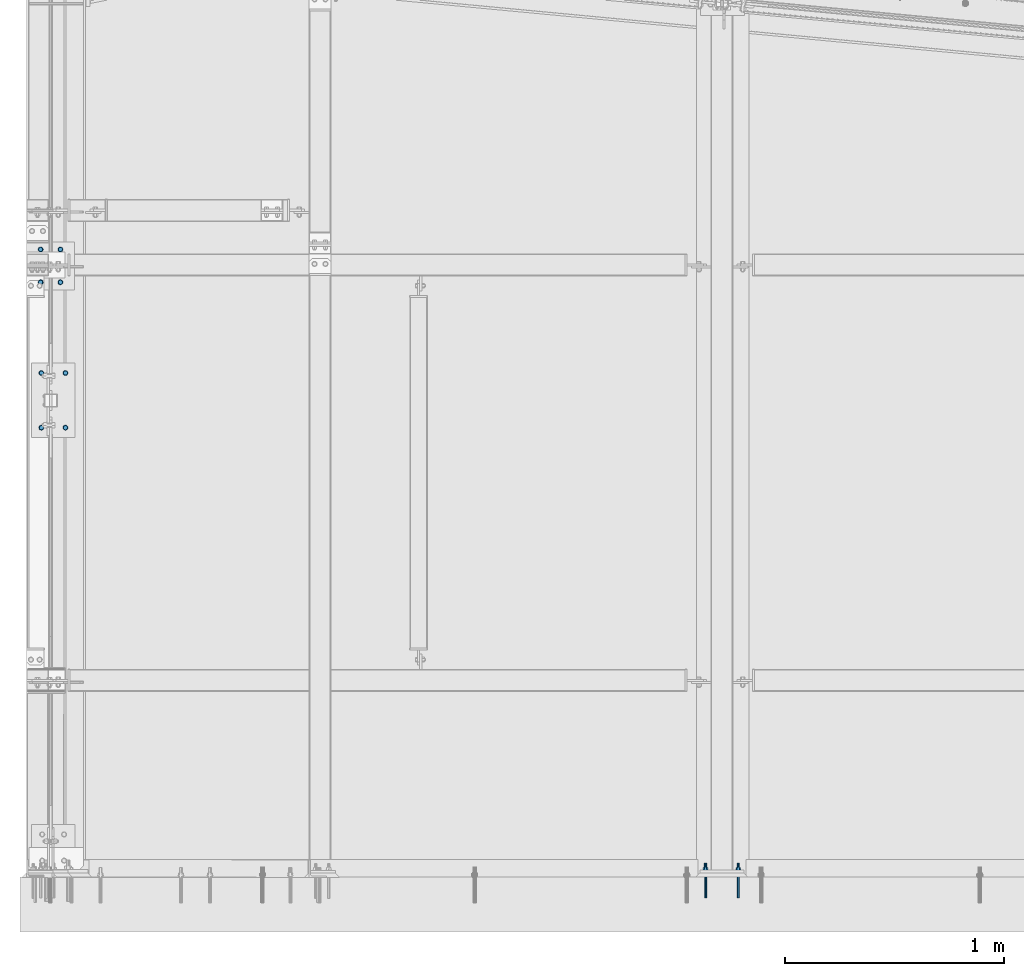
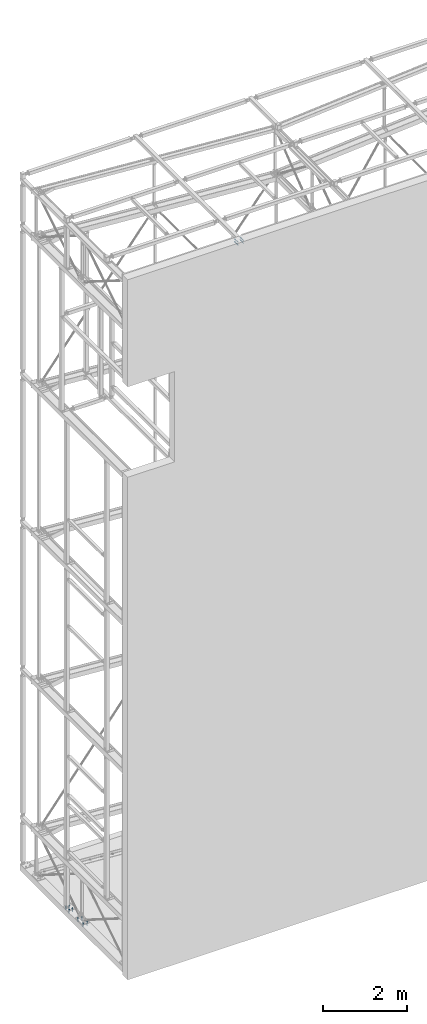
# One storey, part 218 of 271: 3 mechanical fasteners, 2 elements without a shape of their own.
"""IFC2X3 building model written with IfcOpenShell, lengths in millimetres."""

from ifc_helpers import new_model, si_unit, frame, origin_with_axes, origin_2d_with_axis, place, context, subcontext, project, spatial, polyline, circle, outline, extrude, source, transform, mapped, material, type_object, element, aggregate, save


model = new_model("IFC2X3")

# Units and contexts
model_context = context("Model", 3, precision=1e-05, world=origin_with_axes())
body_context = subcontext(model_context, "Body", "Model", "MODEL_VIEW")
ifc_project = project(units=[si_unit("LENGTHUNIT", "METRE", prefix="MILLI"), si_unit("AREAUNIT", "SQUARE_METRE"), si_unit("VOLUMEUNIT", "CUBIC_METRE"), si_unit("MASSUNIT", "GRAM", prefix="KILO"), si_unit("TIMEUNIT", "SECOND"), si_unit("PLANEANGLEUNIT", "RADIAN"), si_unit("SOLIDANGLEUNIT", "STERADIAN"), si_unit("THERMODYNAMICTEMPERATUREUNIT", "DEGREE_CELSIUS"), si_unit("LUMINOUSINTENSITYUNIT", "LUMEN")], contexts=[model_context])

# Site, building, storey
site_placement = place(None, origin_with_axes())
site = spatial("IfcSite", under=ifc_project, at=site_placement, Name="Undefined", CompositionType="ELEMENT")
building_placement = place(site_placement, origin_with_axes())
building = spatial("IfcBuilding", under=site, at=building_placement, Name="Undefined", CompositionType="ELEMENT")
storey_placement = place(building_placement, origin_with_axes())
storey = spatial("IfcBuildingStorey", under=building, at=storey_placement, Name="Undefined", CompositionType="ELEMENT", Elevation=0.0)

# Assembly, mechanical fasteners
assembly_1_placement = place(storey_placement, origin_with_axes())
assembly_1 = element("IfcElementAssembly", 1, at=assembly_1_placement, inside=storey, AssemblyPlace="NOTDEFINED", PredefinedType="REINFORCEMENT_UNIT")
ifc_material = material(Name="Undefined")
mechanical_fastener_type = type_object("IfcMechanicalFastenerType", Name="Bolt assembly")
shared_shape_1 = source(origin_with_axes(), body_context, "Body", "SweptSolid", [
    extrude(circle(Radius=7.0, at=origin_2d_with_axis()), frame((0.0, 0.0, 0.0), z_axis=(0.0, 1.0, 0.0), x_axis=(1.0, 0.0, 0.0)), (0.0, 0.0, 1.0), 16.1),
    extrude(outline(polyline([(10.39230484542, 0.0), (5.19615242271, 9.00000000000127), (-5.19615242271, 9.00000000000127), (-10.39230484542, 0.0), (-5.19615242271, -9.00000000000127), (5.19615242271, -9.00000000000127), (10.39230484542, 0.0)])), frame((0.0, -7.5, 0.0), z_axis=(0.0, 1.0, 0.0), x_axis=(1.0, 0.0, 0.0)), (0.0, 0.0, 1.0), 7.5),
    extrude(circle(Radius=6.0, at=origin_2d_with_axis()), frame((0.0, 0.0, 0.0), z_axis=(0.0, 1.0, 0.0), x_axis=(1.0, 0.0, 0.0)), (0.0, 0.0, 1.0), 100.0),
    extrude(circle(Radius=12.0, at=origin_2d_with_axis()), frame((0.0, 16.0, 0.0), z_axis=(0.0, 1.0, 0.0), x_axis=(1.0, 0.0, 0.0)), (0.0, 0.0, 1.0), 2.5),
    extrude(outline(polyline([(10.96965511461, 0.0), (5.484827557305, 9.50000000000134), (-5.484827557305, 9.50000000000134), (-10.96965511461, 0.0), (-5.484827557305, -9.50000000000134), (5.484827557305, -9.50000000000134), (10.96965511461, 0.0)])), frame((0.0, 18.5, 0.0), z_axis=(0.0, 1.0, 0.0), x_axis=(1.0, 0.0, 0.0)), (0.0, 0.0, 1.0), 10.0),
])
mechanical_fastener_1_placement = place(assembly_1_placement, frame((97.9999999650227, 2870.0, 0.0), z_axis=(1.0, 0.0, 0.0), x_axis=(0.0, -1.0, 0.0)))
mechanical_fastener_1 = element("IfcMechanicalFastener", 2, at=mechanical_fastener_1_placement, type_object=mechanical_fastener_type, material=ifc_material, Name="Bolt assembly", NominalDiameter=12.0, NominalLength=100.0, context=body_context, shape_type="MappedRepresentation", body=[
    mapped(shared_shape_1, transform((0.0, 0.0, -45.0))),
    mapped(shared_shape_1, transform((150.0, 0.0, -45.0000000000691))),
    mapped(shared_shape_1, transform((0.0, 0.0, 45.0))),
    mapped(shared_shape_1, transform((150.0, 0.0, 44.9999999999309))),
])
mechanical_fastener_2_placement = place(assembly_1_placement, frame((110.999999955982, 2305.0, 0.0), z_axis=(1.0, 0.0, 0.0), x_axis=(0.0, -1.0, 0.0)))
mechanical_fastener_2 = element("IfcMechanicalFastener", 3, at=mechanical_fastener_2_placement, type_object=mechanical_fastener_type, material=ifc_material, Name="Bolt assembly", NominalDiameter=12.0, NominalLength=100.0, context=body_context, shape_type="MappedRepresentation", body=[
    mapped(shared_shape_1, transform((0.0, 0.0, -55.0))),
    mapped(shared_shape_1, transform((250.0, 0.0, -55.0000000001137))),
    mapped(shared_shape_1, transform((0.0, 0.0, 55.0))),
    mapped(shared_shape_1, transform((250.0, 0.0, 54.9999999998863))),
])
aggregate(assembly_1, [mechanical_fastener_1, mechanical_fastener_2])

# Assembly, mechanical fastener
assembly_2_placement = place(storey_placement, origin_with_axes())
assembly_2 = element("IfcElementAssembly", 4, at=assembly_2_placement, inside=storey, AssemblyPlace="NOTDEFINED", PredefinedType="RIGID_FRAME")
shared_shape_2 = source(origin_with_axes(), body_context, "Body", "SweptSolid", [
    extrude(circle(Radius=7.0, at=origin_2d_with_axis()), frame((0.0, -12.0, 0.0), z_axis=(0.0, 1.0, 0.0), x_axis=(1.0, 0.0, 0.0)), (0.0, 0.0, 1.0), 12.1),
    extrude(outline(polyline([(5.80237031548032, 0.0), (2.90118515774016, 5.02500009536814), (-2.90118515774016, 5.02500009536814), (-5.80237031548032, 0.0), (-2.90118515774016, -5.02500009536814), (2.90118515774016, -5.02500009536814), (5.80237031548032, 0.0)])), frame((0.0, -128.0, 0.0), z_axis=(0.0, 1.0, 0.0), x_axis=(1.0, 0.0, 0.0)), (0.0, 0.0, 1.0), 116.0),
    extrude(circle(Radius=6.0, at=origin_2d_with_axis()), frame((0.0, -12.0, 0.0), z_axis=(0.0, 1.0, 0.0), x_axis=(1.0, 0.0, 0.0)), (0.0, 0.0, 1.0), 44.0),
    extrude(circle(Radius=12.0, at=origin_2d_with_axis()), frame((0.0, 0.0, 0.0), z_axis=(0.0, 1.0, 0.0), x_axis=(1.0, 0.0, 0.0)), (0.0, 0.0, 1.0), 2.5),
    extrude(outline(polyline([(10.96965511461, 0.0), (5.484827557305, 9.50000000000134), (-5.484827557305, 9.50000000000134), (-10.96965511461, 0.0), (-5.484827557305, -9.50000000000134), (5.484827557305, -9.50000000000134), (10.96965511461, 0.0)])), frame((0.0, 2.50000000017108, 0.0), z_axis=(0.0, 1.0, 0.0), x_axis=(1.0, 0.0, 0.0)), (0.0, 0.0, 1.0), 10.0),
])
mechanical_fastener_3_placement = place(assembly_2_placement, frame((3118.37568709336, 31.3249842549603, 20154.3499999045), z_axis=(0.0, 0.0, 1.0), x_axis=(1.0, 0.0, 0.0)))
mechanical_fastener_3 = element("IfcMechanicalFastener", 5, at=mechanical_fastener_3_placement, type_object=mechanical_fastener_type, material=ifc_material, Name="Bolt assembly", NominalDiameter=12.0, NominalLength=44.0, context=body_context, shape_type="MappedRepresentation", body=[
    mapped(shared_shape_2, transform((-25.0, 0.0, -90.0))),
    mapped(shared_shape_2, transform((-25.0, 0.0, -10.0))),
    mapped(shared_shape_2, transform((125.0, 0.0, -90.0))),
    mapped(shared_shape_2, transform((125.0, 0.0, -10.0))),
])
aggregate(assembly_2, [mechanical_fastener_3])

save(model, "model.ifc")
